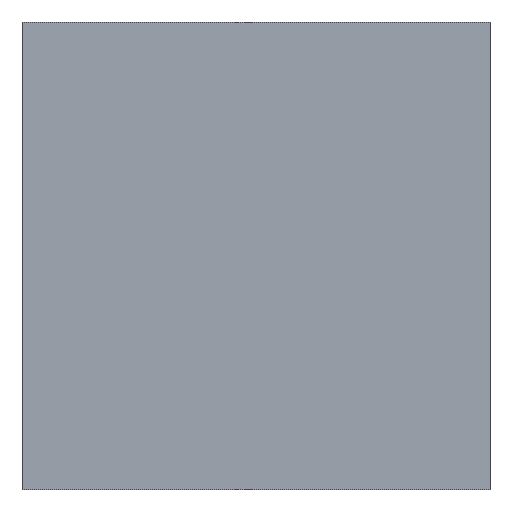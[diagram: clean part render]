
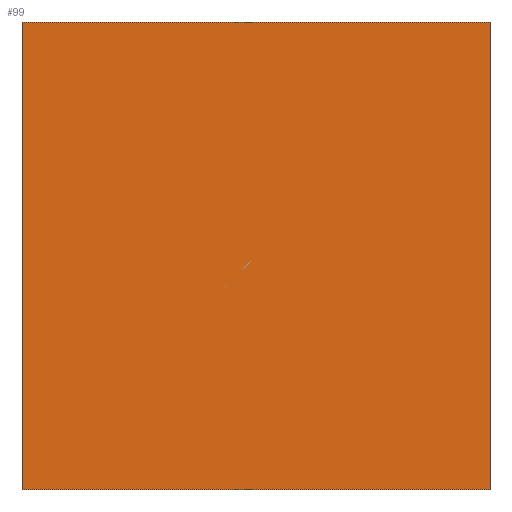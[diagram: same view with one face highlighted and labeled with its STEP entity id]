
A CAD part, front view. The second image highlights one B-rep face of the part: STEP entity #99.
In plain terms, the highlighted planar face has unit normal (0, -1, 0).
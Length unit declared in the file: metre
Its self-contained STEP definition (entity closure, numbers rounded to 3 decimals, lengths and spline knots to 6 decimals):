
#16=ORIENTED_EDGE('',*,*,#40,.F.);
#17=ORIENTED_EDGE('',*,*,#41,.T.);
#18=ORIENTED_EDGE('',*,*,#36,.T.);
#19=ORIENTED_EDGE('',*,*,#42,.F.);
#36=EDGE_CURVE('',#48,#49,#56,.T.);
#40=EDGE_CURVE('',#52,#53,#60,.T.);
#41=EDGE_CURVE('',#52,#48,#61,.T.);
#42=EDGE_CURVE('',#53,#49,#62,.T.);
#48=VERTEX_POINT('',#152);
#49=VERTEX_POINT('',#153);
#52=VERTEX_POINT('',#161);
#53=VERTEX_POINT('',#162);
#56=LINE('',#151,#68);
#60=LINE('',#160,#72);
#61=LINE('',#163,#73);
#62=LINE('',#164,#74);
#68=VECTOR('',#127,1.);
#72=VECTOR('',#133,1.);
#73=VECTOR('',#134,1.);
#74=VECTOR('',#135,1.);
#81=EDGE_LOOP('',(#16,#17,#18,#19));
#87=FACE_BOUND('',#81,.T.);
#93=PLANE('',#118);
#99=ADVANCED_FACE('',(#87),#93,.T.);
#118=AXIS2_PLACEMENT_3D('',#159,#131,#132);
#127=DIRECTION('',(0.,0.,-1.));
#131=DIRECTION('',(0.,-1.,0.));
#132=DIRECTION('',(1.,0.,0.));
#133=DIRECTION('',(0.,0.,-1.));
#134=DIRECTION('',(-1.,0.,0.));
#135=DIRECTION('',(-1.,0.,0.));
#151=CARTESIAN_POINT('',(0.00435,0.0049,0.001539));
#152=CARTESIAN_POINT('',(0.00435,0.0049,0.001));
#153=CARTESIAN_POINT('',(0.00435,0.0049,0.0005));
#159=CARTESIAN_POINT('',(0.00435,0.0049,0.001539));
#160=CARTESIAN_POINT('',(0.00485,0.0049,0.001539));
#161=CARTESIAN_POINT('',(0.00485,0.0049,0.001));
#162=CARTESIAN_POINT('',(0.00485,0.0049,0.0005));
#163=CARTESIAN_POINT('',(0.00435,0.0049,0.001));
#164=CARTESIAN_POINT('',(0.00435,0.0049,0.0005));
